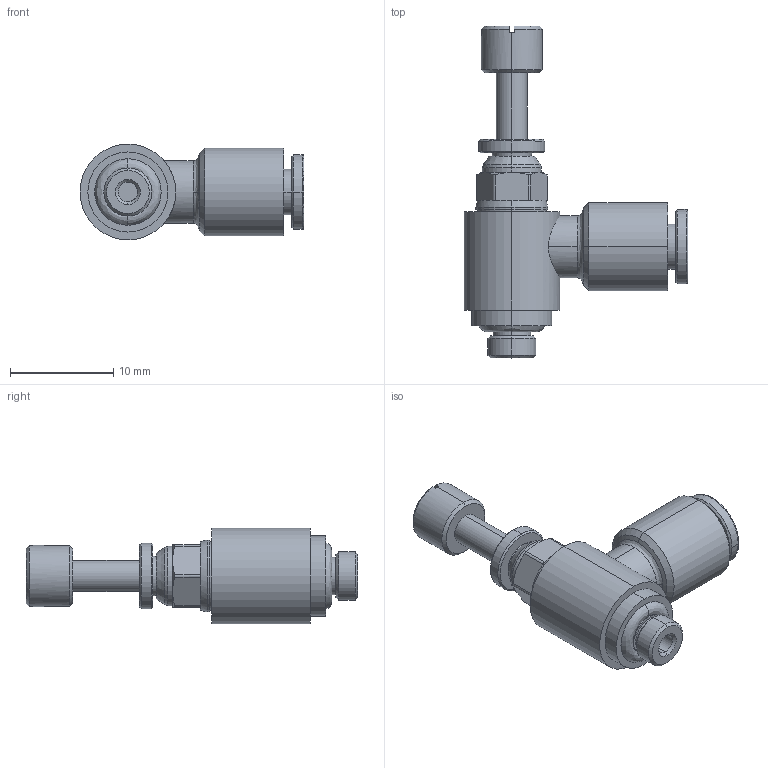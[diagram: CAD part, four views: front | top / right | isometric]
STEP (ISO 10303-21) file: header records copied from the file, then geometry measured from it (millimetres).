
FILE_DESCRIPTION (( 'STEP AP203' ), '1' );
FILE_NAME ('112687.stp', '2018-02-21T21:44:03', ( '' ), ( '' ), 'SwSTEP 2.0', 'SolidWorks 2012', '' );
FILE_SCHEMA (( 'CONFIG_CONTROL_DESIGN' ));
Length unit declared in the file: centimetre
Products named in the file (1): 112687
Bounding box: 21.64 x 32.08 x 9.25 mm (x, y, z)
Volume: 1573.3 mm3; surface area: 1466.4 mm2
Topology: 1 solids, 1 shells, 127 faces, 286 edges, 176 vertices
Faces by surface type: cylinder 43, plane 42, cone 36, bspline 6
Entity records: 3819 total; most frequent: CARTESIAN_POINT 856, DIRECTION 648, ORIENTED_EDGE 572, EDGE_CURVE 286, AXIS2_PLACEMENT_3D 268, VERTEX_POINT 176, CIRCLE 146, EDGE_LOOP 144
